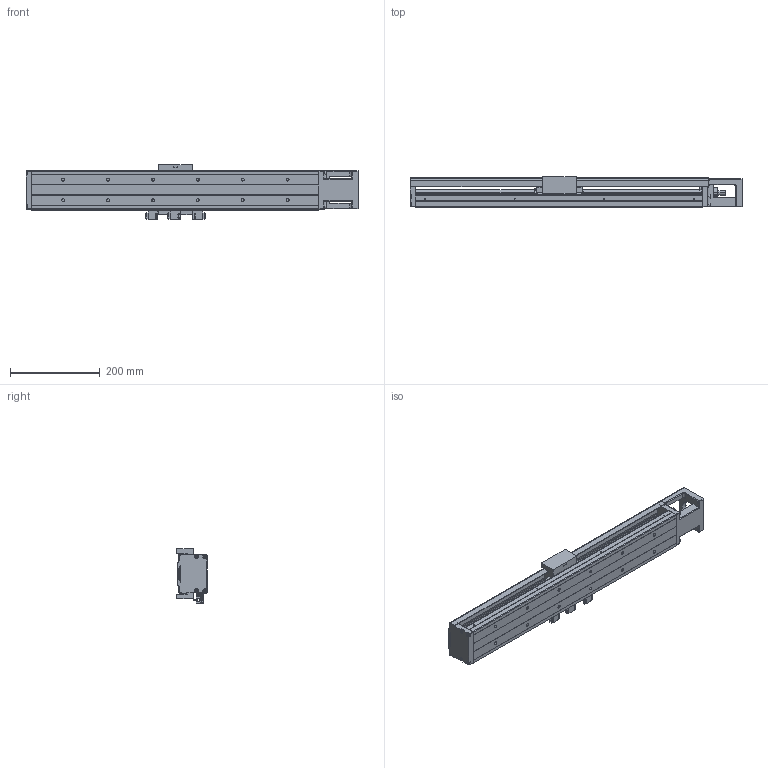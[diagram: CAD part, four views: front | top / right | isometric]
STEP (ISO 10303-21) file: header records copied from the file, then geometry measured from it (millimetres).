
FILE_DESCRIPTION (( 'STEP AP203' ), '1' );
FILE_NAME ('HKK86D20C-640A1-F0CS2.stp', '2021-11-30T03:24:05', ( '' ), ( '' ), 'SwSTEP 2.0', 'SolidWorks 2018', '' );
FILE_SCHEMA (( 'CONFIG_CONTROL_DESIGN' ));
Length unit declared in the file: millimetre
Products named in the file (1): HKK86D20C-640A1-F0CS2
Bounding box: 740 x 68 x 121.5 mm (x, y, z)
Volume: 1831083.6 mm3; surface area: 507317.3 mm2
Topology: 6 solids, 15 shells, 1373 faces, 3483 edges, 2206 vertices
Faces by surface type: plane 761, cylinder 437, cone 126, torus 32, sphere 9, bspline 8
Entity records: 41447 total; most frequent: CARTESIAN_POINT 8375, ORIENTED_EDGE 6834, DIRECTION 6829, EDGE_CURVE 3417, VECTOR 2287, LINE 2287, AXIS2_PLACEMENT_3D 2271, VERTEX_POINT 2202
